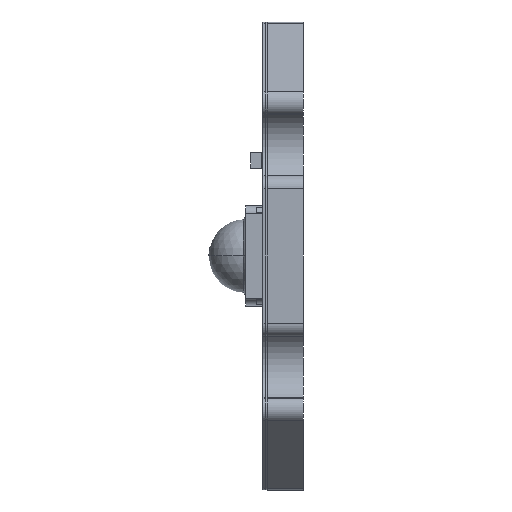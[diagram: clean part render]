
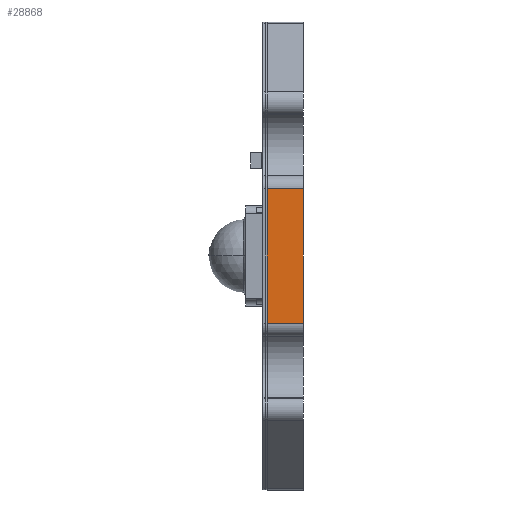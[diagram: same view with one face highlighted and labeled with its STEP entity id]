
A CAD part, left-side view. The second image highlights one B-rep face of the part: STEP entity #28868.
In plain terms, the highlighted planar face has unit normal (-1, 0, 0).
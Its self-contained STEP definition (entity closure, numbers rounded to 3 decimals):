
#275 = CARTESIAN_POINT ( 'NONE',  ( -9.95, -1.747, 2.927 ) ) ;
#1580 = EDGE_CURVE ( 'NONE', #20230, #28318, #11911, .T. ) ;
#1604 = PLANE ( 'NONE',  #4041 ) ;
#1711 = DIRECTION ( 'NONE',  ( 0., 0., 1. ) ) ;
#3898 = DIRECTION ( 'NONE',  ( 0., 0., 1. ) ) ;
#4041 = AXIS2_PLACEMENT_3D ( 'NONE', #33909, #17828, #1711 ) ;
#4769 = DIRECTION ( 'NONE',  ( 0., 1., 0. ) ) ;
#6706 = CARTESIAN_POINT ( 'NONE',  ( -9.95, -0.177, -2.927 ) ) ;
#9079 = LINE ( 'NONE', #275, #22522 ) ;
#9291 = EDGE_CURVE ( 'NONE', #32848, #20230, #9079, .T. ) ;
#10192 = CARTESIAN_POINT ( 'NONE',  ( -9.95, -1.747, -2.927 ) ) ;
#11911 = LINE ( 'NONE', #23273, #25365 ) ;
#12203 = CARTESIAN_POINT ( 'NONE',  ( -9.95, -1.747, 2.927 ) ) ;
#12374 = ORIENTED_EDGE ( 'NONE', *, *, #29496, .F. ) ;
#12819 = LINE ( 'NONE', #25537, #26271 ) ;
#13335 = LINE ( 'NONE', #18133, #20487 ) ;
#14113 = DIRECTION ( 'NONE',  ( 0., 1., 0. ) ) ;
#14564 = VERTEX_POINT ( 'NONE', #6706 ) ;
#15672 = ORIENTED_EDGE ( 'NONE', *, *, #1580, .T. ) ;
#16794 = CARTESIAN_POINT ( 'NONE',  ( -9.95, -0.177, 2.927 ) ) ;
#17236 = EDGE_CURVE ( 'NONE', #14564, #28318, #12819, .T. ) ;
#17828 = DIRECTION ( 'NONE',  ( -1., 0., 0. ) ) ;
#18133 = CARTESIAN_POINT ( 'NONE',  ( -9.95, -1.747, -2.927 ) ) ;
#20136 = FACE_OUTER_BOUND ( 'NONE', #31594, .T. ) ;
#20230 = VERTEX_POINT ( 'NONE', #12203 ) ;
#20487 = VECTOR ( 'NONE', #4769, 1000. ) ;
#22293 = ORIENTED_EDGE ( 'NONE', *, *, #9291, .T. ) ;
#22522 = VECTOR ( 'NONE', #30023, 1000. ) ;
#23273 = CARTESIAN_POINT ( 'NONE',  ( -9.95, -1.747, 2.927 ) ) ;
#25365 = VECTOR ( 'NONE', #14113, 1000. ) ;
#25537 = CARTESIAN_POINT ( 'NONE',  ( -9.95, -0.177, 2.927 ) ) ;
#26271 = VECTOR ( 'NONE', #3898, 1000. ) ;
#28318 = VERTEX_POINT ( 'NONE', #16794 ) ;
#28868 = ADVANCED_FACE ( 'NONE', ( #20136 ), #1604, .T. ) ;
#28883 = ORIENTED_EDGE ( 'NONE', *, *, #17236, .F. ) ;
#29496 = EDGE_CURVE ( 'NONE', #32848, #14564, #13335, .T. ) ;
#30023 = DIRECTION ( 'NONE',  ( 0., 0., 1. ) ) ;
#31594 = EDGE_LOOP ( 'NONE', ( #28883, #12374, #22293, #15672 ) ) ;
#32848 = VERTEX_POINT ( 'NONE', #10192 ) ;
#33909 = CARTESIAN_POINT ( 'NONE',  ( -9.95, -1.747, 2.927 ) ) ;
